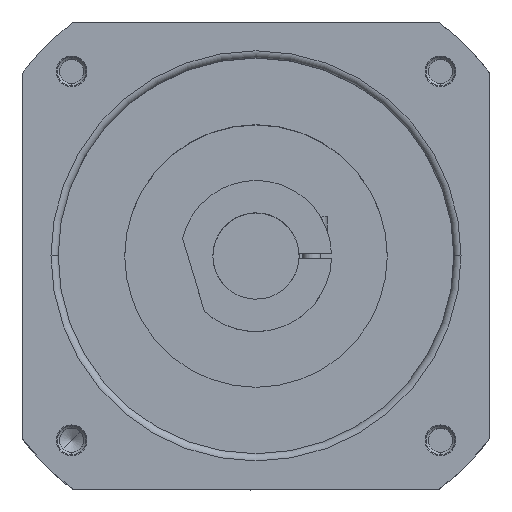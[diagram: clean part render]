
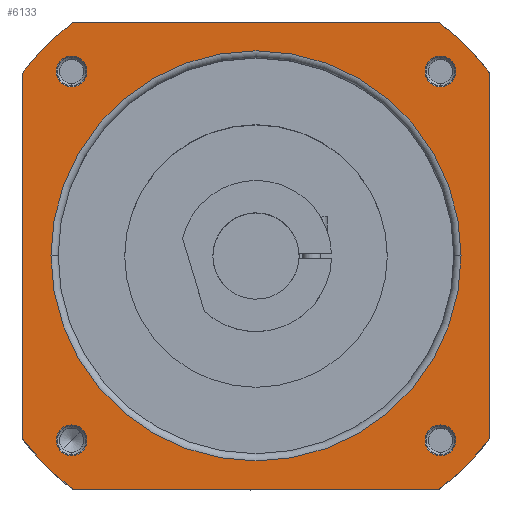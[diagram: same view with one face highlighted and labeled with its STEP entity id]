
A CAD part, top view. The second image highlights one B-rep face of the part: STEP entity #6133.
In plain terms, the highlighted planar face has unit normal (0, 0, 1) as drawn and (0, 1, 0) by its records, which use the part's own axes.
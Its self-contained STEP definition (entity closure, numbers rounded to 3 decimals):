
#4953=CARTESIAN_POINT('',(0.,66.,0.));
#4954=DIRECTION('',(0.,1.,0.));
#4955=DIRECTION('',(0.788,0.,-0.616));
#4956=AXIS2_PLACEMENT_3D('',#4953,#4954,#4955);
#4958=DIRECTION('',(0.,0.,-1.));
#4959=VECTOR('',#4958,101.612);
#4960=CARTESIAN_POINT('',(65.,66.,50.806));
#4961=LINE('',#4960,#4959);
#4962=CARTESIAN_POINT('',(0.,66.,0.));
#4963=DIRECTION('',(0.,1.,0.));
#4964=DIRECTION('',(0.616,0.,0.788));
#4965=AXIS2_PLACEMENT_3D('',#4962,#4963,#4964);
#4967=DIRECTION('',(1.,0.,0.));
#4968=VECTOR('',#4967,101.612);
#4969=CARTESIAN_POINT('',(-50.806,66.,65.));
#4970=LINE('',#4969,#4968);
#4971=CARTESIAN_POINT('',(0.,66.,0.));
#4972=DIRECTION('',(0.,1.,0.));
#4973=DIRECTION('',(-0.788,0.,0.616));
#4974=AXIS2_PLACEMENT_3D('',#4971,#4972,#4973);
#4976=DIRECTION('',(0.,0.,1.));
#4977=VECTOR('',#4976,101.612);
#4978=CARTESIAN_POINT('',(-65.,66.,-50.806));
#4979=LINE('',#4978,#4977);
#4980=CARTESIAN_POINT('',(0.,66.,0.));
#4981=DIRECTION('',(0.,1.,0.));
#4982=DIRECTION('',(-0.616,0.,-0.788));
#4983=AXIS2_PLACEMENT_3D('',#4980,#4981,#4982);
#4985=DIRECTION('',(-1.,0.,0.));
#4986=VECTOR('',#4985,101.612);
#4987=CARTESIAN_POINT('',(50.806,66.,-65.));
#4988=LINE('',#4987,#4986);
#4989=CARTESIAN_POINT('',(-51.265,66.,51.265));
#4990=DIRECTION('',(0.,-1.,0.));
#4991=DIRECTION('',(1.,0.,0.));
#4992=AXIS2_PLACEMENT_3D('',#4989,#4990,#4991);
#4999=CARTESIAN_POINT('',(-51.265,66.,51.265));
#5000=DIRECTION('',(0.,-1.,0.));
#5001=DIRECTION('',(-1.,0.,0.));
#5002=AXIS2_PLACEMENT_3D('',#4999,#5000,#5001);
#5035=CARTESIAN_POINT('',(-51.265,66.,-51.265));
#5036=DIRECTION('',(0.,-1.,0.));
#5037=DIRECTION('',(1.,0.,0.));
#5038=AXIS2_PLACEMENT_3D('',#5035,#5036,#5037);
#5045=CARTESIAN_POINT('',(-51.265,66.,-51.265));
#5046=DIRECTION('',(0.,-1.,0.));
#5047=DIRECTION('',(-1.,0.,0.));
#5048=AXIS2_PLACEMENT_3D('',#5045,#5046,#5047);
#5081=CARTESIAN_POINT('',(51.265,66.,-51.265));
#5082=DIRECTION('',(0.,-1.,0.));
#5083=DIRECTION('',(1.,0.,0.));
#5084=AXIS2_PLACEMENT_3D('',#5081,#5082,#5083);
#5091=CARTESIAN_POINT('',(51.265,66.,-51.265));
#5092=DIRECTION('',(0.,-1.,0.));
#5093=DIRECTION('',(-1.,0.,0.));
#5094=AXIS2_PLACEMENT_3D('',#5091,#5092,#5093);
#5452=CARTESIAN_POINT('',(51.265,66.,51.265));
#5453=DIRECTION('',(0.,-1.,0.));
#5454=DIRECTION('',(1.,0.,0.));
#5455=AXIS2_PLACEMENT_3D('',#5452,#5453,#5454);
#5462=CARTESIAN_POINT('',(51.265,66.,51.265));
#5463=DIRECTION('',(0.,-1.,0.));
#5464=DIRECTION('',(-1.,0.,0.));
#5465=AXIS2_PLACEMENT_3D('',#5462,#5463,#5464);
#5516=CARTESIAN_POINT('',(0.,66.,0.));
#5517=DIRECTION('',(0.,-1.,0.));
#5518=DIRECTION('',(0.,0.,1.));
#5519=AXIS2_PLACEMENT_3D('',#5516,#5517,#5518);
#5531=CARTESIAN_POINT('',(0.,66.,0.));
#5532=DIRECTION('',(0.,-1.,0.));
#5533=DIRECTION('',(0.,0.,-1.));
#5534=AXIS2_PLACEMENT_3D('',#5531,#5532,#5533);
#5781=CARTESIAN_POINT('',(-65.,66.,-50.806));
#5783=VERTEX_POINT('',#5781);
#5785=CARTESIAN_POINT('',(-65.,66.,50.806));
#5787=VERTEX_POINT('',#5785);
#5789=CARTESIAN_POINT('',(-50.806,66.,65.));
#5791=VERTEX_POINT('',#5789);
#5793=CARTESIAN_POINT('',(50.806,66.,65.));
#5795=VERTEX_POINT('',#5793);
#5797=CARTESIAN_POINT('',(65.,66.,-50.806));
#5799=VERTEX_POINT('',#5797);
#5801=CARTESIAN_POINT('',(65.,66.,50.806));
#5803=VERTEX_POINT('',#5801);
#5805=CARTESIAN_POINT('',(50.806,66.,-65.));
#5807=VERTEX_POINT('',#5805);
#5809=CARTESIAN_POINT('',(-50.806,66.,-65.));
#5811=VERTEX_POINT('',#5809);
#5842=CARTESIAN_POINT('',(55.54,66.,51.265));
#5843=CARTESIAN_POINT('',(46.99,66.,51.265));
#5844=VERTEX_POINT('',#5842);
#5845=VERTEX_POINT('',#5843);
#5850=CARTESIAN_POINT('',(-46.99,66.,51.265));
#5851=CARTESIAN_POINT('',(-55.54,66.,51.265));
#5852=VERTEX_POINT('',#5850);
#5853=VERTEX_POINT('',#5851);
#5858=CARTESIAN_POINT('',(-46.99,66.,-51.265));
#5859=CARTESIAN_POINT('',(-55.54,66.,-51.265));
#5860=VERTEX_POINT('',#5858);
#5861=VERTEX_POINT('',#5859);
#5866=CARTESIAN_POINT('',(55.54,66.,-51.265));
#5867=CARTESIAN_POINT('',(46.99,66.,-51.265));
#5868=VERTEX_POINT('',#5866);
#5869=VERTEX_POINT('',#5867);
#5906=CARTESIAN_POINT('',(0.,66.,57.));
#5907=CARTESIAN_POINT('',(0.,66.,-57.));
#5908=VERTEX_POINT('',#5906);
#5909=VERTEX_POINT('',#5907);
#6083=CARTESIAN_POINT('',(0.,66.,0.));
#6084=DIRECTION('',(0.,-1.,0.));
#6085=DIRECTION('',(-1.,0.,0.));
#6086=AXIS2_PLACEMENT_3D('',#6083,#6084,#6085);
#6087=PLANE('',#6086);
#6088=ORIENTED_EDGE('',*,*,#6054,.F.);
#6090=ORIENTED_EDGE('',*,*,#6089,.F.);
#6092=ORIENTED_EDGE('',*,*,#6091,.F.);
#6094=ORIENTED_EDGE('',*,*,#6093,.F.);
#6096=ORIENTED_EDGE('',*,*,#6095,.F.);
#6097=ORIENTED_EDGE('',*,*,#6068,.F.);
#6098=ORIENTED_EDGE('',*,*,#6042,.F.);
#6100=ORIENTED_EDGE('',*,*,#6099,.F.);
#6101=EDGE_LOOP('',(#6088,#6090,#6092,#6094,#6096,#6097,#6098,#6100));
#6102=FACE_OUTER_BOUND('',#6101,.F.);
#6104=ORIENTED_EDGE('',*,*,#6103,.F.);
#6106=ORIENTED_EDGE('',*,*,#6105,.F.);
#6107=EDGE_LOOP('',(#6104,#6106));
#6108=FACE_BOUND('',#6107,.F.);
#6110=ORIENTED_EDGE('',*,*,#6109,.F.);
#6112=ORIENTED_EDGE('',*,*,#6111,.F.);
#6113=EDGE_LOOP('',(#6110,#6112));
#6114=FACE_BOUND('',#6113,.F.);
#6116=ORIENTED_EDGE('',*,*,#6115,.F.);
#6118=ORIENTED_EDGE('',*,*,#6117,.F.);
#6119=EDGE_LOOP('',(#6116,#6118));
#6120=FACE_BOUND('',#6119,.F.);
#6122=ORIENTED_EDGE('',*,*,#6121,.F.);
#6124=ORIENTED_EDGE('',*,*,#6123,.F.);
#6125=EDGE_LOOP('',(#6122,#6124));
#6126=FACE_BOUND('',#6125,.F.);
#6128=ORIENTED_EDGE('',*,*,#6127,.F.);
#6130=ORIENTED_EDGE('',*,*,#6129,.F.);
#6131=EDGE_LOOP('',(#6128,#6130));
#6132=FACE_BOUND('',#6131,.F.);
#6133=ADVANCED_FACE('',(#6102,#6108,#6114,#6120,#6126,#6132),#6087,.F.);
#4957=CIRCLE('',#4956,82.5);
#4966=CIRCLE('',#4965,82.5);
#4975=CIRCLE('',#4974,82.5);
#4984=CIRCLE('',#4983,82.5);
#4993=CIRCLE('',#4992,4.275);
#5003=CIRCLE('',#5002,4.275);
#5039=CIRCLE('',#5038,4.275);
#5049=CIRCLE('',#5048,4.275);
#5085=CIRCLE('',#5084,4.275);
#5095=CIRCLE('',#5094,4.275);
#5456=CIRCLE('',#5455,4.275);
#5466=CIRCLE('',#5465,4.275);
#5520=CIRCLE('',#5519,57.);
#5535=CIRCLE('',#5534,57.);
#6042=EDGE_CURVE('',#5811,#5783,#4984,.T.);
#6054=EDGE_CURVE('',#5799,#5807,#4957,.T.);
#6068=EDGE_CURVE('',#5783,#5787,#4979,.T.);
#6089=EDGE_CURVE('',#5803,#5799,#4961,.T.);
#6091=EDGE_CURVE('',#5795,#5803,#4966,.T.);
#6093=EDGE_CURVE('',#5791,#5795,#4970,.T.);
#6095=EDGE_CURVE('',#5787,#5791,#4975,.T.);
#6099=EDGE_CURVE('',#5807,#5811,#4988,.T.);
#6103=EDGE_CURVE('',#5852,#5853,#4993,.T.);
#6105=EDGE_CURVE('',#5853,#5852,#5003,.T.);
#6109=EDGE_CURVE('',#5860,#5861,#5039,.T.);
#6111=EDGE_CURVE('',#5861,#5860,#5049,.T.);
#6115=EDGE_CURVE('',#5868,#5869,#5085,.T.);
#6117=EDGE_CURVE('',#5869,#5868,#5095,.T.);
#6121=EDGE_CURVE('',#5844,#5845,#5456,.T.);
#6123=EDGE_CURVE('',#5845,#5844,#5466,.T.);
#6127=EDGE_CURVE('',#5908,#5909,#5520,.T.);
#6129=EDGE_CURVE('',#5909,#5908,#5535,.T.);
